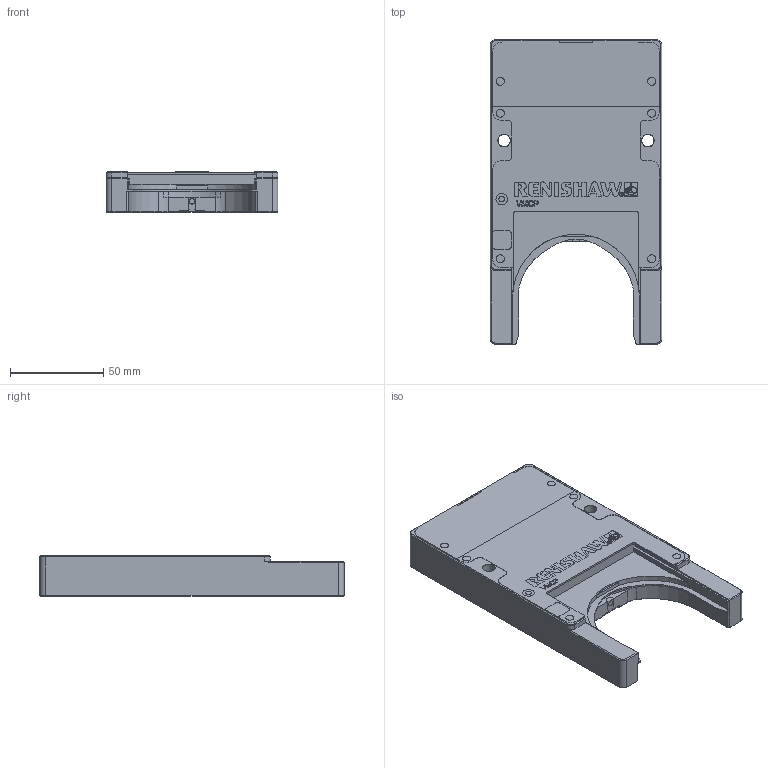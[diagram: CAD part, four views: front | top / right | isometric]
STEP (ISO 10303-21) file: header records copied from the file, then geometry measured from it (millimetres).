
FILE_DESCRIPTION(/* description */ (''),/* implementation_level */ '2;1');
FILE_NAME(/* name */ 'LA-5378-3166-B.stp',/* time_stamp */ '2022-02-03T08:41:53+00:00',/* author */ (''),/* organization */ (''),/* preprocessor_version */ 'ST-DEVELOPER v16.7',/* originating_system */ 'SIEMENS PLM Software NX 1946',/* authorisation */ '');
FILE_SCHEMA (('AUTOMOTIVE_DESIGN { 1 0 10303 214 3 1 1 1 }'));
Length unit declared in the file: millimetre
Products named in the file (1): LA-5378-3166-B_VMCP BODY
Bounding box: 92 x 163 x 21.6 mm (x, y, z)
Volume: 232578.7 mm3; surface area: 37773 mm2
Topology: 1 solids, 1 shells, 222 faces, 711 edges, 533 vertices
Faces by surface type: plane 145, cylinder 51, cone 26
Full cylindrical faces by diameter (mm): 6.5 x2, 11 x2
Entity records: 8649 total; most frequent: CARTESIAN_POINT 1622, ORIENTED_EDGE 1402, DIRECTION 1321, EDGE_CURVE 701, VERTEX_POINT 531, LINE 485, VECTOR 485, AXIS2_PLACEMENT_3D 418
